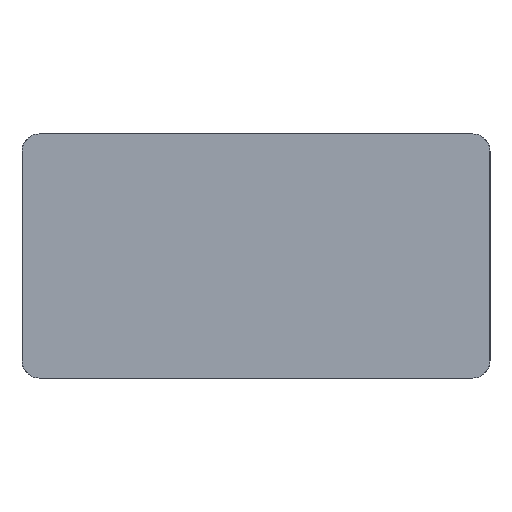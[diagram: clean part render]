
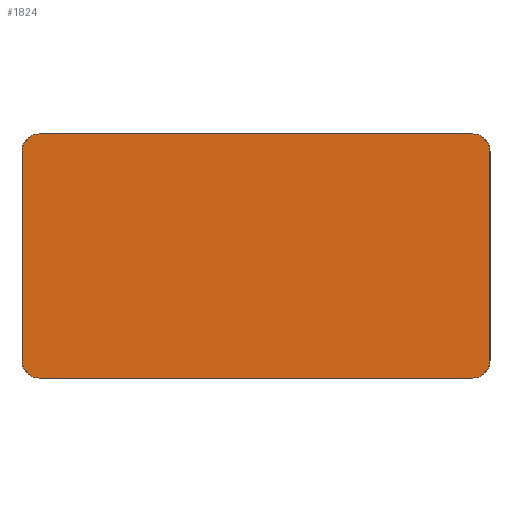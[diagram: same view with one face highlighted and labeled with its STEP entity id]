
A CAD part, front view. The second image highlights one B-rep face of the part: STEP entity #1824.
In plain terms, the highlighted planar face has unit normal (0, -1, 0).
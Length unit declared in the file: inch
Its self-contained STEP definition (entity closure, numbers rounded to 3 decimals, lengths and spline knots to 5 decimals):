
#13 = EDGE_CURVE ( 'NONE', #689, #1500, #2007, .T. ) ;
#26 = ORIENTED_EDGE ( 'NONE', *, *, #1015, .T. ) ;
#102 = AXIS2_PLACEMENT_3D ( 'NONE', #2714, #2094, #382 ) ;
#200 = CARTESIAN_POINT ( 'NONE',  ( -1.01, 3.34977, 0. ) ) ;
#212 = EDGE_CURVE ( 'NONE', #2276, #1403, #1463, .T. ) ;
#236 = CARTESIAN_POINT ( 'NONE',  ( -0.4056, 3.34977, -0.00226 ) ) ;
#247 = DIRECTION ( 'NONE',  ( 0., 1., 0. ) ) ;
#266 = CARTESIAN_POINT ( 'NONE',  ( -0.3756, 3.34977, 0.425 ) ) ;
#338 = CIRCLE ( 'NONE', #990, 0.03 ) ;
#358 = AXIS2_PLACEMENT_3D ( 'NONE', #1520, #2134, #478 ) ;
#370 = CARTESIAN_POINT ( 'NONE',  ( -0.4056, 3.34977, 0.395 ) ) ;
#382 = DIRECTION ( 'NONE',  ( 0., 0., 1. ) ) ;
#399 = ORIENTED_EDGE ( 'NONE', *, *, #1042, .T. ) ;
#419 = DIRECTION ( 'NONE',  ( 0., 0., 1. ) ) ;
#424 = CARTESIAN_POINT ( 'NONE',  ( -0.3756, 3.34977, 0. ) ) ;
#426 = VERTEX_POINT ( 'NONE', #2432 ) ;
#455 = CARTESIAN_POINT ( 'NONE',  ( 0.37921, 3.34977, 0.425 ) ) ;
#478 = DIRECTION ( 'NONE',  ( 0., 0., 1. ) ) ;
#521 = VECTOR ( 'NONE', #1027, 39.37008 ) ;
#611 = LINE ( 'NONE', #1284, #521 ) ;
#689 = VERTEX_POINT ( 'NONE', #455 ) ;
#700 = DIRECTION ( 'NONE',  ( 0., -1., 0. ) ) ;
#701 = AXIS2_PLACEMENT_3D ( 'NONE', #236, #247, #1706 ) ;
#870 = CARTESIAN_POINT ( 'NONE',  ( 0.40921, 3.34977, -0.00226 ) ) ;
#990 = AXIS2_PLACEMENT_3D ( 'NONE', #2000, #700, #2403 ) ;
#1005 = EDGE_LOOP ( 'NONE', ( #1562, #26, #1389, #1166, #399, #2477, #1744, #2520 ) ) ;
#1015 = EDGE_CURVE ( 'NONE', #1500, #1974, #2038, .T. ) ;
#1027 = DIRECTION ( 'NONE',  ( 0., 0., 1. ) ) ;
#1029 = LINE ( 'NONE', #870, #2148 ) ;
#1042 = EDGE_CURVE ( 'NONE', #1403, #426, #2258, .T. ) ;
#1074 = FACE_OUTER_BOUND ( 'NONE', #1005, .T. ) ;
#1166 = ORIENTED_EDGE ( 'NONE', *, *, #212, .T. ) ;
#1204 = VECTOR ( 'NONE', #1574, 39.37008 ) ;
#1240 = DIRECTION ( 'NONE',  ( 1., 0., 0. ) ) ;
#1284 = CARTESIAN_POINT ( 'NONE',  ( -0.4056, 3.34977, -0.00226 ) ) ;
#1380 = EDGE_CURVE ( 'NONE', #426, #1383, #2321, .T. ) ;
#1383 = VERTEX_POINT ( 'NONE', #2672 ) ;
#1389 = ORIENTED_EDGE ( 'NONE', *, *, #2440, .F. ) ;
#1403 = VERTEX_POINT ( 'NONE', #424 ) ;
#1430 = VERTEX_POINT ( 'NONE', #1924 ) ;
#1432 = AXIS2_PLACEMENT_3D ( 'NONE', #2030, #2299, #1820 ) ;
#1463 = CIRCLE ( 'NONE', #358, 0.03 ) ;
#1467 = VECTOR ( 'NONE', #1240, 39.37008 ) ;
#1500 = VERTEX_POINT ( 'NONE', #266 ) ;
#1520 = CARTESIAN_POINT ( 'NONE',  ( -0.3756, 3.34977, 0.03 ) ) ;
#1562 = ORIENTED_EDGE ( 'NONE', *, *, #13, .T. ) ;
#1574 = DIRECTION ( 'NONE',  ( -1., 0., 0. ) ) ;
#1706 = DIRECTION ( 'NONE',  ( 0., 0., 1. ) ) ;
#1744 = ORIENTED_EDGE ( 'NONE', *, *, #2006, .T. ) ;
#1796 = CARTESIAN_POINT ( 'NONE',  ( -0.4056, 3.34977, 0.425 ) ) ;
#1820 = DIRECTION ( 'NONE',  ( 0., 0., 1. ) ) ;
#1824 = ADVANCED_FACE ( 'NONE', ( #1074 ), #2131, .F. ) ;
#1924 = CARTESIAN_POINT ( 'NONE',  ( 0.40921, 3.34977, 0.395 ) ) ;
#1974 = VERTEX_POINT ( 'NONE', #370 ) ;
#2000 = CARTESIAN_POINT ( 'NONE',  ( 0.37921, 3.34977, 0.395 ) ) ;
#2006 = EDGE_CURVE ( 'NONE', #1383, #1430, #1029, .T. ) ;
#2007 = LINE ( 'NONE', #1796, #1204 ) ;
#2030 = CARTESIAN_POINT ( 'NONE',  ( 0.37921, 3.34977, 0.03 ) ) ;
#2038 = CIRCLE ( 'NONE', #102, 0.03 ) ;
#2094 = DIRECTION ( 'NONE',  ( 0., -1., 0. ) ) ;
#2131 = PLANE ( 'NONE',  #701 ) ;
#2134 = DIRECTION ( 'NONE',  ( 0., -1., 0. ) ) ;
#2148 = VECTOR ( 'NONE', #419, 39.37008 ) ;
#2210 = EDGE_CURVE ( 'NONE', #1430, #689, #338, .T. ) ;
#2246 = CARTESIAN_POINT ( 'NONE',  ( -0.4056, 3.34977, 0.03 ) ) ;
#2258 = LINE ( 'NONE', #200, #1467 ) ;
#2276 = VERTEX_POINT ( 'NONE', #2246 ) ;
#2299 = DIRECTION ( 'NONE',  ( 0., -1., 0. ) ) ;
#2321 = CIRCLE ( 'NONE', #1432, 0.03 ) ;
#2403 = DIRECTION ( 'NONE',  ( 0., 0., 1. ) ) ;
#2432 = CARTESIAN_POINT ( 'NONE',  ( 0.37921, 3.34977, 0. ) ) ;
#2440 = EDGE_CURVE ( 'NONE', #2276, #1974, #611, .T. ) ;
#2477 = ORIENTED_EDGE ( 'NONE', *, *, #1380, .T. ) ;
#2520 = ORIENTED_EDGE ( 'NONE', *, *, #2210, .T. ) ;
#2672 = CARTESIAN_POINT ( 'NONE',  ( 0.40921, 3.34977, 0.03 ) ) ;
#2714 = CARTESIAN_POINT ( 'NONE',  ( -0.3756, 3.34977, 0.395 ) ) ;
